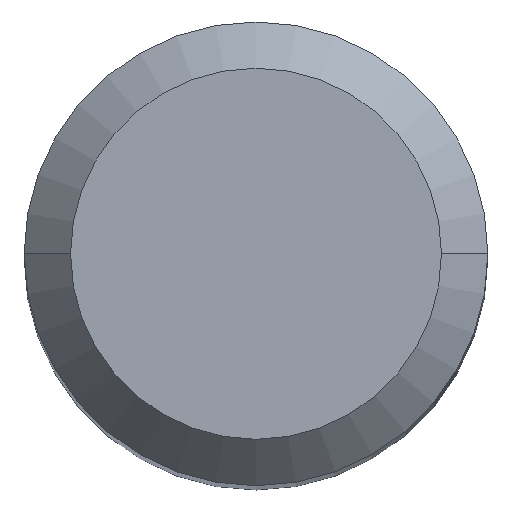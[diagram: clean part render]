
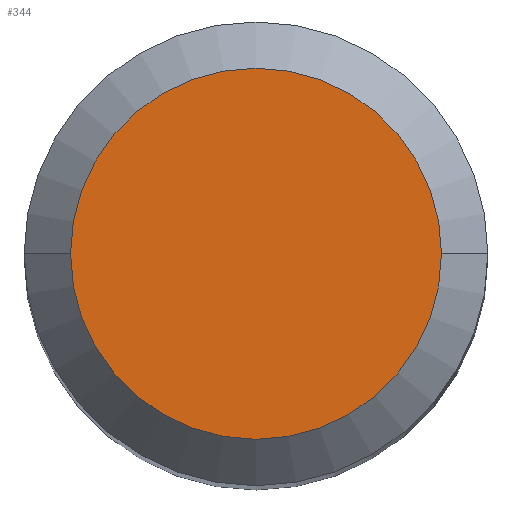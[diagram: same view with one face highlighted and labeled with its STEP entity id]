
A CAD part, top view. The second image highlights one B-rep face of the part: STEP entity #344.
In plain terms, the highlighted planar face has unit normal (0, 0, 1).
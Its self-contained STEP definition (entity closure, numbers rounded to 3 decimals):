
#14 = DIRECTION ( 'NONE',  ( 1., 0., 0. ) ) ;
#57 = CIRCLE ( 'NONE', #505, 3.2 ) ;
#152 = VERTEX_POINT ( 'NONE', #193 ) ;
#186 = DIRECTION ( 'NONE',  ( -1., 0., 0. ) ) ;
#193 = CARTESIAN_POINT ( 'NONE',  ( -3.2, 0., 0. ) ) ;
#197 = CARTESIAN_POINT ( 'NONE',  ( 0., 3.2, 0. ) ) ;
#222 = VERTEX_POINT ( 'NONE', #251 ) ;
#234 = DIRECTION ( 'NONE',  ( 0., 0., -1. ) ) ;
#251 = CARTESIAN_POINT ( 'NONE',  ( 3.2, 0., 0. ) ) ;
#261 = AXIS2_PLACEMENT_3D ( 'NONE', #358, #316, #269 ) ;
#263 = EDGE_LOOP ( 'NONE', ( #406, #310 ) ) ;
#269 = DIRECTION ( 'NONE',  ( -1., 0., 0. ) ) ;
#272 = CARTESIAN_POINT ( 'NONE',  ( 0., 0., 0. ) ) ;
#302 = PLANE ( 'NONE',  #398 ) ;
#310 = ORIENTED_EDGE ( 'NONE', *, *, #485, .F. ) ;
#316 = DIRECTION ( 'NONE',  ( 0., 0., -1. ) ) ;
#344 = ADVANCED_FACE ( 'NONE', ( #439 ), #302, .T. ) ;
#358 = CARTESIAN_POINT ( 'NONE',  ( 0., 0., 0. ) ) ;
#398 = AXIS2_PLACEMENT_3D ( 'NONE', #197, #569, #14 ) ;
#406 = ORIENTED_EDGE ( 'NONE', *, *, #522, .F. ) ;
#439 = FACE_OUTER_BOUND ( 'NONE', #263, .T. ) ;
#447 = CIRCLE ( 'NONE', #261, 3.2 ) ;
#485 = EDGE_CURVE ( 'NONE', #222, #152, #447, .T. ) ;
#505 = AXIS2_PLACEMENT_3D ( 'NONE', #272, #234, #186 ) ;
#522 = EDGE_CURVE ( 'NONE', #152, #222, #57, .T. ) ;
#569 = DIRECTION ( 'NONE',  ( 0., 0., 1. ) ) ;
